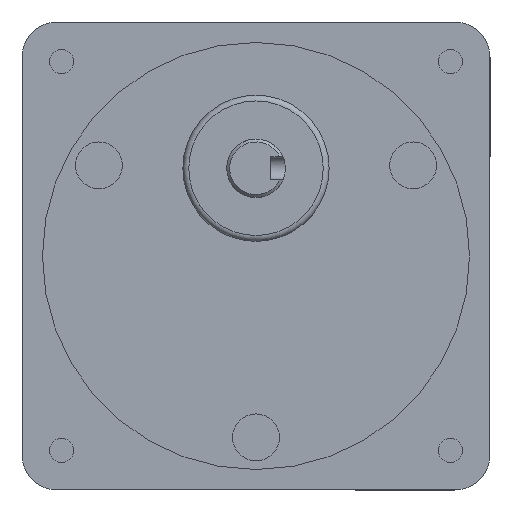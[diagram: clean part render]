
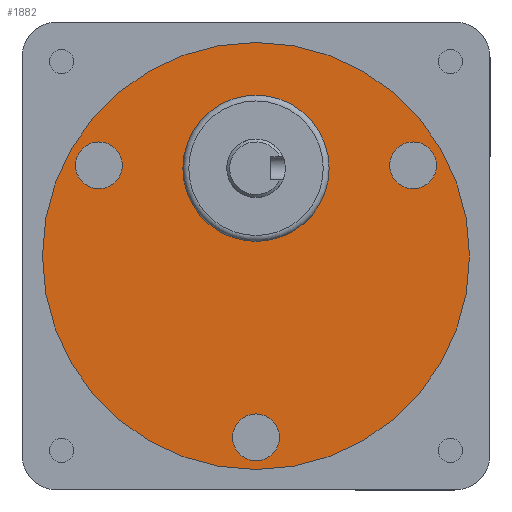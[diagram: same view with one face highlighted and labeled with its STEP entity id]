
A CAD part, front view. The second image highlights one B-rep face of the part: STEP entity #1882.
In plain terms, the highlighted planar face has unit normal (0, -1, 0).
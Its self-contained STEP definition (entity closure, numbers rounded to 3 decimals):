
#75=FACE_BOUND('',#377,.T.);
#76=FACE_BOUND('',#378,.T.);
#77=FACE_BOUND('',#379,.T.);
#132=PLANE('',#2183);
#236=FACE_OUTER_BOUND('',#376,.T.);
#376=EDGE_LOOP('',(#1608));
#377=EDGE_LOOP('',(#1609));
#378=EDGE_LOOP('',(#1610));
#379=EDGE_LOOP('',(#1611));
#771=CIRCLE('',#2169,4.);
#773=CIRCLE('',#2173,4.);
#775=CIRCLE('',#2177,4.);
#778=CIRCLE('',#2182,36.5);
#926=VERTEX_POINT('',#3275);
#928=VERTEX_POINT('',#3282);
#930=VERTEX_POINT('',#3289);
#933=VERTEX_POINT('',#3298);
#1157=EDGE_CURVE('',#926,#926,#771,.T.);
#1160=EDGE_CURVE('',#928,#928,#773,.T.);
#1163=EDGE_CURVE('',#930,#930,#775,.T.);
#1168=EDGE_CURVE('',#933,#933,#778,.T.);
#1608=ORIENTED_EDGE('',*,*,#1168,.T.);
#1609=ORIENTED_EDGE('',*,*,#1157,.T.);
#1610=ORIENTED_EDGE('',*,*,#1160,.T.);
#1611=ORIENTED_EDGE('',*,*,#1163,.T.);
#1882=ADVANCED_FACE('',(#236,#75,#76,#77),#132,.F.);
#2169=AXIS2_PLACEMENT_3D('',#3276,#2682,#2683);
#2173=AXIS2_PLACEMENT_3D('',#3283,#2691,#2692);
#2177=AXIS2_PLACEMENT_3D('',#3290,#2700,#2701);
#2182=AXIS2_PLACEMENT_3D('',#3300,#2712,#2713);
#2183=AXIS2_PLACEMENT_3D('',#3301,#2714,#2715);
#2682=DIRECTION('center_axis',(0.,1.,0.));
#2683=DIRECTION('ref_axis',(0.5,0.,-0.866));
#2691=DIRECTION('center_axis',(0.,1.,0.));
#2692=DIRECTION('ref_axis',(0.5,0.,0.866));
#2700=DIRECTION('center_axis',(0.,1.,0.));
#2701=DIRECTION('ref_axis',(-1.,0.,0.));
#2712=DIRECTION('center_axis',(0.,-1.,0.));
#2713=DIRECTION('ref_axis',(-1.,0.,0.));
#2714=DIRECTION('center_axis',(0.,1.,0.));
#2715=DIRECTION('ref_axis',(0.,0.,1.));
#3275=CARTESIAN_POINT('',(24.847,0.5,18.964));
#3276=CARTESIAN_POINT('Origin',(26.847,0.5,15.5));
#3282=CARTESIAN_POINT('',(-28.847,0.5,12.036));
#3283=CARTESIAN_POINT('Origin',(-26.847,0.5,15.5));
#3289=CARTESIAN_POINT('',(4.,0.5,-31.));
#3290=CARTESIAN_POINT('Origin',(0.,0.5,-31.));
#3298=CARTESIAN_POINT('',(36.5,0.5,0.));
#3300=CARTESIAN_POINT('Origin',(0.,0.5,0.));
#3301=CARTESIAN_POINT('Origin',(0.,0.5,0.));
